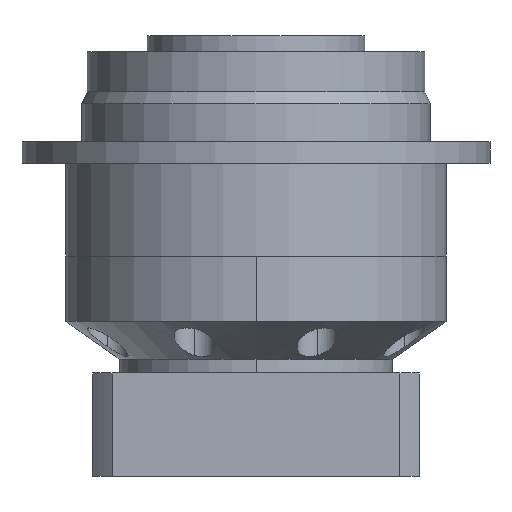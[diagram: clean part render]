
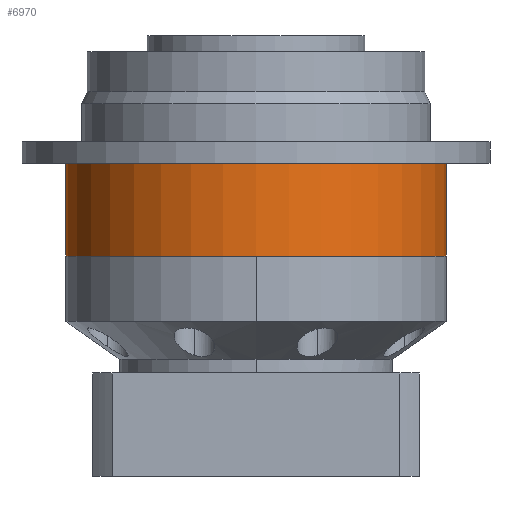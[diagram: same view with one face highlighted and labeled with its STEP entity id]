
A CAD part, front view. The second image highlights one B-rep face of the part: STEP entity #6970.
In plain terms, the highlighted cylindrical face has radius 35 mm (diameter 70 mm), a partial arc.
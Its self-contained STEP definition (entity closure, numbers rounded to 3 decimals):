
#163 = CIRCLE ( 'NONE', #36092, 35. ) ;
#2049 = CYLINDRICAL_SURFACE ( 'NONE', #39646, 35. ) ;
#3227 = FACE_OUTER_BOUND ( 'NONE', #39228, .T. ) ;
#4460 = VERTEX_POINT ( 'NONE', #33982 ) ;
#5506 = CARTESIAN_POINT ( 'NONE',  ( 35., 0., 0. ) ) ;
#6350 = DIRECTION ( 'NONE',  ( 0., 0., 1. ) ) ;
#6845 = DIRECTION ( 'NONE',  ( 1., 0., 0. ) ) ;
#6970 = ADVANCED_FACE ( 'NONE', ( #3227 ), #2049, .T. ) ;
#7738 = CARTESIAN_POINT ( 'NONE',  ( 0., 0., 0. ) ) ;
#8125 = CARTESIAN_POINT ( 'NONE',  ( -35., 0., -20.5 ) ) ;
#9180 = CARTESIAN_POINT ( 'NONE',  ( 35., 0., -37.5 ) ) ;
#9905 = CARTESIAN_POINT ( 'NONE',  ( -35., 0., 0. ) ) ;
#10694 = VECTOR ( 'NONE', #25053, 1000. ) ;
#11654 = VERTEX_POINT ( 'NONE', #21126 ) ;
#15961 = EDGE_CURVE ( 'NONE', #27077, #4460, #35081, .T. ) ;
#17030 = DIRECTION ( 'NONE',  ( 0., 0., 1. ) ) ;
#18487 = DIRECTION ( 'NONE',  ( 0., 0., 1. ) ) ;
#20332 = CARTESIAN_POINT ( 'NONE',  ( 0., 0., -20.5 ) ) ;
#21126 = CARTESIAN_POINT ( 'NONE',  ( -35., 0., -37.5 ) ) ;
#24152 = DIRECTION ( 'NONE',  ( 1., 0., 0. ) ) ;
#24974 = VECTOR ( 'NONE', #17030, 1000. ) ;
#25053 = DIRECTION ( 'NONE',  ( 0., 0., 1. ) ) ;
#25422 = ORIENTED_EDGE ( 'NONE', *, *, #25587, .T. ) ;
#25587 = EDGE_CURVE ( 'NONE', #11654, #27077, #163, .T. ) ;
#27077 = VERTEX_POINT ( 'NONE', #9180 ) ;
#30394 = EDGE_CURVE ( 'NONE', #11654, #35695, #30903, .T. ) ;
#30464 = CIRCLE ( 'NONE', #33228, 35. ) ;
#30903 = LINE ( 'NONE', #9905, #10694 ) ;
#33228 = AXIS2_PLACEMENT_3D ( 'NONE', #20332, #46971, #24152 ) ;
#33982 = CARTESIAN_POINT ( 'NONE',  ( 35., 0., -20.5 ) ) ;
#35081 = LINE ( 'NONE', #5506, #24974 ) ;
#35379 = ORIENTED_EDGE ( 'NONE', *, *, #15961, .T. ) ;
#35695 = VERTEX_POINT ( 'NONE', #8125 ) ;
#36092 = AXIS2_PLACEMENT_3D ( 'NONE', #41234, #18487, #45076 ) ;
#39228 = EDGE_LOOP ( 'NONE', ( #45206, #25422, #35379, #41494 ) ) ;
#39646 = AXIS2_PLACEMENT_3D ( 'NONE', #7738, #6350, #6845 ) ;
#41234 = CARTESIAN_POINT ( 'NONE',  ( 0., 0., -37.5 ) ) ;
#41494 = ORIENTED_EDGE ( 'NONE', *, *, #43294, .T. ) ;
#43294 = EDGE_CURVE ( 'NONE', #4460, #35695, #30464, .T. ) ;
#45076 = DIRECTION ( 'NONE',  ( 1., 0., 0. ) ) ;
#45206 = ORIENTED_EDGE ( 'NONE', *, *, #30394, .F. ) ;
#46971 = DIRECTION ( 'NONE',  ( 0., 0., -1. ) ) ;
